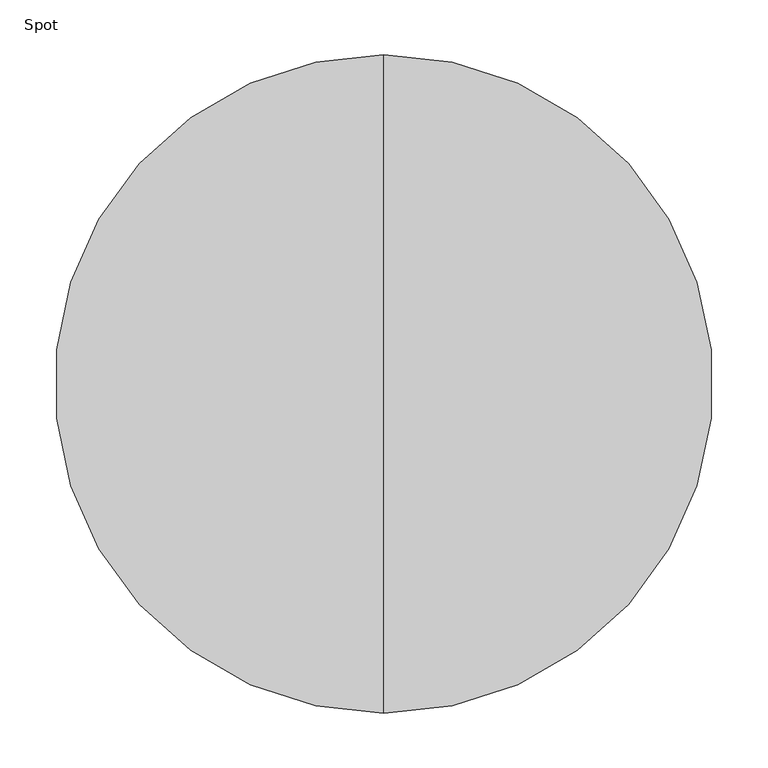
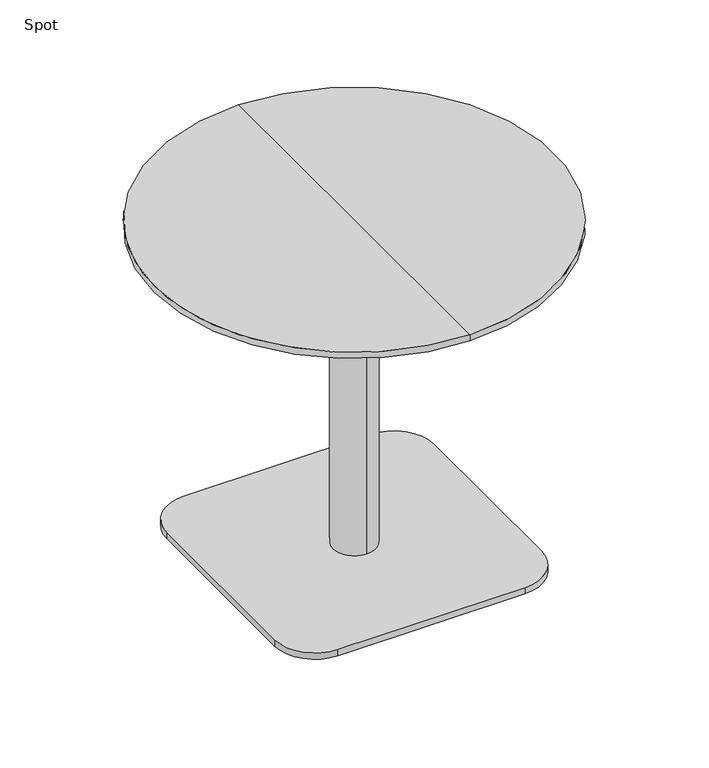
"""IFC4 building model written with IfcOpenShell, lengths in millimetres: furniture geometry, Spot : Bø60x52s."""

import ifcopenshell
import ifcopenshell.guid

model = None  # the IFC model being written
_history = None  # IfcOwnerHistory: only IFC2X3 demands one
_inside = {}  # id of a spatial element -> (the spatial element, [elements in it])
_under = {}  # id of a project, library or spatial element -> (it, [spatial elements below it])
_declared = {}  # id of a project -> (the project, [libraries it declares])
_typed = {}  # id of a type object -> (the type object, [elements of that type])
_made_of = {}  # id of a material, layer set ... -> (it, [elements and type objects made of it])


def new_model(schema):
    """Start an empty IFC model of exactly this schema.

    Asked for "IFC4X3", IfcOpenShell would pick the latest addendum, in which some entities
    have other attributes; the version numbers below select the first issue.
    IFC2X3 requires an IfcOwnerHistory on every rooted entity: one is made here for all.
    """
    global model, _history
    if schema == "IFC4X3":
        model = ifcopenshell.file(schema_version=(4, 3, 0, 0))
    else:
        model = ifcopenshell.file(schema=schema)
    _inside.clear()
    _under.clear()
    _declared.clear()
    _typed.clear()
    _made_of.clear()
    _history = None
    if model.schema == "IFC2X3":
        org = make("IfcOrganization", Name="unknown")
        user = make(
            "IfcPersonAndOrganization",
            ThePerson=make("IfcPerson", FamilyName="unknown"),
            TheOrganization=org,
        )
        app = make(
            "IfcApplication",
            ApplicationDeveloper=org,
            Version="unknown",
            ApplicationFullName="unknown",
            ApplicationIdentifier="unknown",
        )
        _history = make(
            "IfcOwnerHistory",
            OwningUser=user,
            OwningApplication=app,
            ChangeAction="ADDED",
            CreationDate=0,
        )
    return model


def make(cls, **values):
    """One entity of the class cls with the attributes given. An attribute that is None is left unset."""
    return model.create_entity(
        cls, **{name: value for name, value in values.items() if value is not None}
    )


def rooted(cls, **values):
    """An entity with a GlobalId (a new one), such as an element, a storey or a relation."""
    return make(cls, GlobalId=ifcopenshell.guid.new(), OwnerHistory=_history, **values)


def si_unit(unit_type, name, prefix=None):
    """IfcSIUnit, for example si_unit("LENGTHUNIT", "METRE", prefix="MILLI")."""
    return make("IfcSIUnit", UnitType=unit_type, Prefix=prefix, Name=name)


def assignment(units):
    """IfcUnitAssignment: the units of a project."""
    return None if units is None else make("IfcUnitAssignment", Units=units)


def point(xyz):
    """IfcCartesianPoint."""
    return None if xyz is None else make("IfcCartesianPoint", Coordinates=xyz)


def direction(xyz):
    """IfcDirection."""
    return None if xyz is None else make("IfcDirection", DirectionRatios=xyz)


def frame(location, z_axis=None, x_axis=None):
    """IfcAxis2Placement3D, a coordinate frame: its origin and axes. An axis left out is left unset."""
    return make(
        "IfcAxis2Placement3D",
        Location=point(location),
        Axis=direction(z_axis),
        RefDirection=direction(x_axis),
    )


def frame_2d(location, x_axis=None):
    """IfcAxis2Placement2D, a coordinate frame in the plane: its origin and x axis."""
    return make(
        "IfcAxis2Placement2D", Location=point(location), RefDirection=direction(x_axis)
    )


def origin():
    """The frame at (0, 0, 0) with its axes left unset."""
    return frame((0.0, 0.0, 0.0))


def origin_with_axes():
    """The frame at (0, 0, 0) with the z axis (0, 0, 1) and the x axis (1, 0, 0) written out."""
    return frame((0.0, 0.0, 0.0), z_axis=(0.0, 0.0, 1.0), x_axis=(1.0, 0.0, 0.0))


def place(relative_to, where):
    """IfcLocalPlacement: puts the frame where relative to a parent placement (None: the world)."""
    return make(
        "IfcLocalPlacement", PlacementRelTo=relative_to, RelativePlacement=where
    )


def context(
    kind, dimensions, precision=None, world=None, true_north=None, identifier=None
):
    """IfcGeometricRepresentationContext, for example the 3D "Model" context."""
    return make(
        "IfcGeometricRepresentationContext",
        ContextIdentifier=identifier,
        ContextType=kind,
        CoordinateSpaceDimension=dimensions,
        Precision=precision,
        WorldCoordinateSystem=world,
        TrueNorth=true_north,
    )


def project(units=None, contexts=None):
    """IfcProject with its units and contexts."""
    return rooted(
        "IfcProject",
        Name="project",
        RepresentationContexts=contexts,
        UnitsInContext=assignment(units),
    )


def spatial(cls, under=None, at=None, **own):
    """A site, building, storey or space (cls), placed at a placement, below another one or the project."""
    s = rooted(cls, ObjectPlacement=at, **own)
    if under is not None:
        _under.setdefault(under.id(), (under, []))[1].append(s)
    return s


def polyline(points):
    """IfcPolyline through the points."""
    return make("IfcPolyline", Points=[point(p) for p in points])


def circle_curve(where, radius):
    """IfcCircle in the frame where."""
    return make("IfcCircle", Position=where, Radius=radius)


def trimmed(basis, trim1, trim2, sense, master):
    """IfcTrimmedCurve: the piece of a basis curve between two trims."""
    return make(
        "IfcTrimmedCurve",
        BasisCurve=basis,
        Trim1=trim1,
        Trim2=trim2,
        SenseAgreement=sense,
        MasterRepresentation=master,
    )


def segment(curve, same_sense, transition):
    """IfcCompositeCurveSegment."""
    return make(
        "IfcCompositeCurveSegment",
        Transition=transition,
        SameSense=same_sense,
        ParentCurve=curve,
    )


def composite_curve(segments, self_intersect=None):
    """IfcCompositeCurve: segments joined end to end."""
    return make("IfcCompositeCurve", Segments=segments, SelfIntersect=self_intersect)


def outline(outer, holes=None, kind="AREA"):
    """IfcArbitraryClosedProfileDef: a profile drawn as a closed curve; with holes, ...WithVoids."""
    if holes is None:
        return make("IfcArbitraryClosedProfileDef", ProfileType=kind, OuterCurve=outer)
    return make(
        "IfcArbitraryProfileDefWithVoids",
        ProfileType=kind,
        OuterCurve=outer,
        InnerCurves=holes,
    )


def extrude(swept, where, along, depth):
    """IfcExtrudedAreaSolid: the profile swept, set in the frame where, extruded along a direction by depth."""
    return make(
        "IfcExtrudedAreaSolid",
        SweptArea=swept,
        Position=where,
        ExtrudedDirection=direction(along),
        Depth=depth,
    )


def shape(context_of_items, identifier, shape_type, items):
    """IfcShapeRepresentation: the items that make up one representation, for example the "Body"."""
    return make(
        "IfcShapeRepresentation",
        ContextOfItems=context_of_items,
        RepresentationIdentifier=identifier,
        RepresentationType=shape_type,
        Items=items,
    )


def source(mapping_origin, context_of_items, identifier, shape_type, items):
    """IfcRepresentationMap: a shape defined once, which mapped items show again and again."""
    return make(
        "IfcRepresentationMap",
        MappingOrigin=mapping_origin,
        MappedRepresentation=shape(context_of_items, identifier, shape_type, items),
    )


def transform(
    local_origin,
    x_axis=None,
    y_axis=None,
    z_axis=None,
    scale=None,
    scale2=None,
    scale3=None,
    uniform=True,
):
    """IfcCartesianTransformationOperator3D, or its non-uniform kind. x_axis, y_axis, z_axis: its Axis1, 2, 3."""
    if uniform:
        return make(
            "IfcCartesianTransformationOperator3D",
            Axis1=direction(x_axis),
            Axis2=direction(y_axis),
            LocalOrigin=point(local_origin),
            Scale=scale,
            Axis3=direction(z_axis),
        )
    return make(
        "IfcCartesianTransformationOperator3DnonUniform",
        Axis1=direction(x_axis),
        Axis2=direction(y_axis),
        LocalOrigin=point(local_origin),
        Scale=scale,
        Axis3=direction(z_axis),
        Scale2=scale2,
        Scale3=scale3,
    )


def mapped(mapping_source, mapping_target):
    """IfcMappedItem: shows the shape of a source again, moved by a transform."""
    return make(
        "IfcMappedItem", MappingSource=mapping_source, MappingTarget=mapping_target
    )


def made_of(thing, what):
    """Note that an element or type object is made of a material, layer set ...; save() writes the relation."""
    if what is not None:
        _made_of.setdefault(what.id(), (what, []))[1].append(thing)
    return thing


def element(
    cls,
    number,
    at=None,
    inside=None,
    cuts=None,
    type_object=None,
    material=None,
    context=None,
    identifier="Body",
    shape_type=None,
    held_by="IfcProductDefinitionShape",
    body=None,
    shapes=None,
    **own,
):
    """One element of the class cls, such as IfcWall. Its Tag is "e" and its number.

    at: its placement. inside: the storey or other place that contains it. cuts: it is an
    opening in that element (IfcRelVoidsElement). A single representation is given by context,
    identifier, shape_type and body (its items); several are given by shapes. held_by: the class
    of the entity that holds the representations. save() writes the other relations.
    """
    e = rooted(cls, Tag="e%d" % number, ObjectPlacement=at, **own)
    if body is not None:
        shapes = [shape(context, identifier, shape_type, body)]
    if shapes is not None:
        e.Representation = make(held_by, Representations=shapes)
    if inside is not None:
        _inside.setdefault(inside.id(), (inside, []))[1].append(e)
    if cuts is not None:
        rooted(
            "IfcRelVoidsElement", RelatingBuildingElement=cuts, RelatedOpeningElement=e
        )
    if type_object is not None:
        _typed.setdefault(type_object.id(), (type_object, []))[1].append(e)
    return made_of(e, material)


def aggregate(whole, parts):
    """IfcRelAggregates: a whole, such as a stair, and the parts it consists of."""
    return rooted("IfcRelAggregates", RelatingObject=whole, RelatedObjects=parts)


def save(model, path):
    """Write the relations noted so far, then the file.

    IfcRelAggregates (storeys below a building ...), IfcRelContainedInSpatialStructure (elements
    in a storey), IfcRelDefinesByType, IfcRelAssociatesMaterial and IfcRelDeclares: one each for
    every whole, place, type object, material and project.
    """
    for whole, parts in _under.values():
        aggregate(whole, parts)
    for where, things in _inside.values():
        rooted(
            "IfcRelContainedInSpatialStructure",
            RelatedElements=things,
            RelatingStructure=where,
        )
    for kind, things in _typed.values():
        rooted("IfcRelDefinesByType", RelatedObjects=things, RelatingType=kind)
    for what, things in _made_of.values():
        rooted("IfcRelAssociatesMaterial", RelatedObjects=things, RelatingMaterial=what)
    for by, libraries in _declared.values():
        rooted("IfcRelDeclares", RelatingContext=by, RelatedDefinitions=libraries)
    model.write(path)


def plane_surface(at):
    """IfcPlane: the flat surface through the origin of the frame at, square to its z axis."""
    return make("IfcPlane", Position=at)


def cylinder_surface(at, radius):
    """IfcCylindricalSurface: all points at the distance radius from the z axis of the frame at."""
    return make("IfcCylindricalSurface", Position=at, Radius=radius)


def revolved_surface(curve, axis_point, axis_direction):
    """IfcSurfaceOfRevolution: the curve turned about the line through axis_point along axis_direction."""
    return make(
        "IfcSurfaceOfRevolution",
        SweptCurve=make("IfcArbitraryOpenProfileDef", ProfileType="CURVE", Curve=curve),
        AxisPosition=make("IfcAxis1Placement", Location=point(axis_point), Axis=direction(axis_direction)),
    )


def advanced_brep(points, edges, surfaces, faces):
    """IfcAdvancedBrep: a solid bounded by faces that lie on surfaces and meet in shared edges.

    An edge is (start, end): straight between two places in points (the first is 0);
    or (start, end, curve); or (start, end, curve, False) where it runs against its curve.
    A face is (place in surfaces, loops), or (place, loops, False) where it looks against
    its surface's normal. A loop lists edges by number (the first is 1), with a minus sign
    where the edge is run from its end to its start. The first loop is the outer one.
    """
    corners = [point(p) for p in points]
    vertices = [make("IfcVertexPoint", VertexGeometry=c) for c in corners]
    made = []
    for start, end, *more in edges:
        made.append(
            make(
                "IfcEdgeCurve",
                EdgeStart=vertices[start],
                EdgeEnd=vertices[end],
                EdgeGeometry=more[0] if more else make("IfcPolyline", Points=[corners[start], corners[end]]),
                SameSense=more[1] if len(more) > 1 else True,
            )
        )
    hull = []
    for where, loops, *sense in faces:
        bounds = []
        for j, loop in enumerate(loops):
            ring = [make("IfcOrientedEdge", EdgeElement=made[abs(k) - 1], Orientation=k > 0) for k in loop]
            bounds.append(
                make(
                    "IfcFaceOuterBound" if j == 0 else "IfcFaceBound",
                    Bound=make("IfcEdgeLoop", EdgeList=ring),
                    Orientation=True,
                )
            )
        hull.append(make("IfcAdvancedFace", Bounds=bounds, FaceSurface=surfaces[where], SameSense=sense[0] if sense else True))
    return make("IfcAdvancedBrep", Outer=make("IfcClosedShell", CfsFaces=hull))


def spot_172ff6e7(model_context):
    return source(origin(), model_context, "Body", "SolidModel", [
        advanced_brep(
        [(0.0, -300.0, 520.0), (0.0, 300.0, 520.0), (0.0, 0.0, 520.0), (0.0, 300.0, 510.25), (0.0, -300.0, 510.25), (0.0, 0.0, 498.0), (0.0, -254.2823776, 498.0), (0.0, 254.2823776, 498.0)],
        [
            (0, 1, circle_curve(frame((0.0, 0.0, 520.0), z_axis=(0.0, 0.0, 1.0), x_axis=(0.0, -1.0, 0.0)), 300.0)),
            (1, 2),
            (2, 0),
            (3, 4, circle_curve(frame((0.0, 0.0, 510.25), z_axis=(0.0, 0.0, 1.0), x_axis=(0.0, -1.0, 0.0)), 300.0)),
            (4, 0),
            (0, 1, circle_curve(frame((0.0, 0.0, 520.0), z_axis=(0.0, 0.0, -1.0), x_axis=(0.0, -1.0, 0.0)), 300.0)),
            (1, 3),
            (5, 6),
            (6, 7, circle_curve(frame((0.0, 0.0, 498.0), z_axis=(0.0, 0.0, -1.0), x_axis=(0.0, -1.0, 0.0)), 254.2823776)),
            (7, 5),
            (7, 6, circle_curve(frame((0.0, 0.0, 498.0), z_axis=(0.0, 0.0, -1.0), x_axis=(0.0, -1.0, 0.0)), 254.2823776)),
            (4, 3, circle_curve(frame((0.0, 0.0, 510.25), z_axis=(0.0, 0.0, 1.0), x_axis=(0.0, -1.0, 0.0)), 300.0)),
            (6, 4),
            (3, 7),
        ],
        [
            plane_surface(frame((0.0, 0.0, 520.0), z_axis=(0.0, 0.0, 1.0), x_axis=(0.0, -1.0, 0.0))),
            cylinder_surface(frame((0.0, 0.0, 600.0), z_axis=(0.0, 0.0, -1.0), x_axis=(0.0, -1.0, 0.0)), 300.0),
            plane_surface(frame((0.0, 0.0, 498.0), z_axis=(0.0, 0.0, -1.0), x_axis=(0.0, -1.0, 0.0))),
            revolved_surface(polyline([(0.0, -300.0, 510.25), (0.0, -254.2823776, 498.0)]), (0.0, 0.0, 600.0), (0.0, 0.0, -1.0)),
        ],
        [
            (0, [[1, 2, 3]]),
            (1, [[4, 5, 6, 7]]),
            (2, [[8, 9, 10]]),
            (2, [[-10, 11, -8]]),
            (0, [[-6, -3, -2]]),
            (1, [[12, -7, -1, -5]]),
            (3, [[-9, 13, -4, 14]]),
            (3, [[-11, -14, -12, -13]]),
        ],
    ),
        extrude(outline(composite_curve([segment(trimmed(circle_curve(frame_2d((140.0, 140.0)), 60.0), [point((140.0, 200.0))], [point((200.0, 140.0))], False, "CARTESIAN"), True, "CONTINUOUS"), segment(polyline([(200.0, 140.0), (200.0, -140.0)]), True, "CONTINUOUS"), segment(trimmed(circle_curve(frame_2d((140.0, -140.0)), 60.0), [point((200.0, -140.0))], [point((140.0, -200.0))], False, "CARTESIAN"), True, "CONTINUOUS"), segment(polyline([(140.0, -200.0), (-140.0, -200.0)]), True, "CONTINUOUS"), segment(trimmed(circle_curve(frame_2d((-140.0, -140.0)), 60.0), [point((-140.0, -200.0))], [point((-200.0, -140.0))], False, "CARTESIAN"), True, "CONTINUOUS"), segment(polyline([(-200.0, -140.0), (-200.0, 140.0)]), True, "CONTINUOUS"), segment(trimmed(circle_curve(frame_2d((-140.0, 140.0)), 60.0), [point((-200.0, 140.0))], [point((-140.0, 200.0))], False, "CARTESIAN"), True, "CONTINUOUS"), segment(polyline([(-140.0, 200.0), (140.0, 200.0)]), True, "CONTINUOUS")], self_intersect=False)), origin_with_axes(), (0.0, 0.0, 1.0), 10.0),
        advanced_brep(
        [(0.0, 32.0, 10.0), (0.0, -32.0, 10.0), (0.0, -32.0, 467.406916), (0.0, 32.0, 467.406916), (0.0, 0.0, 10.0), (0.0, 150.0, 498.0), (0.0, -150.0, 498.0), (0.0, 0.0, 498.0), (0.0, 150.0, 486.7213673), (0.0, -150.0, 486.7213673)],
        [
            (0, 1, circle_curve(frame((0.0, 0.0, 10.0), z_axis=(0.0, 0.0, 1.0), x_axis=(0.0, -1.0, 0.0)), 32.0)),
            (1, 2),
            (2, 3, circle_curve(frame((0.0, 0.0, 467.406916), z_axis=(0.0, 0.0, -1.0), x_axis=(0.0, -1.0, 0.0)), 32.0)),
            (3, 0),
            (1, 0, circle_curve(frame((0.0, 0.0, 10.0), z_axis=(0.0, 0.0, 1.0), x_axis=(0.0, -1.0, 0.0)), 32.0)),
            (3, 2, circle_curve(frame((0.0, 0.0, 467.406916), z_axis=(0.0, 0.0, -1.0), x_axis=(0.0, -1.0, 0.0)), 32.0)),
            (4, 1),
            (0, 4),
            (5, 6, circle_curve(frame((0.0, 0.0, 498.0), z_axis=(0.0, 0.0, 1.0), x_axis=(0.0, -1.0, 0.0)), 150.0)),
            (6, 7),
            (7, 5),
            (6, 5, circle_curve(frame((0.0, 0.0, 498.0), z_axis=(0.0, 0.0, 1.0), x_axis=(0.0, -1.0, 0.0)), 150.0)),
            (8, 9, circle_curve(frame((0.0, 0.0, 486.7213673), z_axis=(0.0, 0.0, 1.0), x_axis=(0.0, -1.0, 0.0)), 150.0)),
            (9, 6),
            (5, 8),
            (9, 8, circle_curve(frame((0.0, 0.0, 486.7213673), z_axis=(0.0, 0.0, 1.0), x_axis=(0.0, -1.0, 0.0)), 150.0)),
            (2, 9),
            (8, 3),
        ],
        [
            cylinder_surface(frame((0.0, 0.0, 860.0), z_axis=(0.0, 0.0, -1.0), x_axis=(0.0, -1.0, 0.0)), 32.0),
            plane_surface(frame((0.0, 0.0, 10.0), z_axis=(0.0, 0.0, -1.0), x_axis=(0.0, -1.0, 0.0))),
            plane_surface(frame((0.0, 0.0, 498.0), z_axis=(0.0, 0.0, 1.0), x_axis=(0.0, -1.0, 0.0))),
            cylinder_surface(frame((0.0, 0.0, 860.0), z_axis=(0.0, 0.0, -1.0), x_axis=(0.0, -1.0, 0.0)), 150.0),
            revolved_surface(polyline([(0.0, -150.0, 486.7213673), (0.0, -32.0, 467.406916)]), (0.0, 0.0, 860.0), (0.0, 0.0, -1.0)),
        ],
        [
            (0, [[1, 2, 3, 4]]),
            (0, [[5, -4, 6, -2]]),
            (1, [[7, -1, 8]]),
            (1, [[-8, -5, -7]]),
            (2, [[9, 10, 11]]),
            (2, [[12, -11, -10]]),
            (3, [[13, 14, -9, 15]]),
            (3, [[16, -15, -12, -14]]),
            (4, [[-3, 17, -13, 18]]),
            (4, [[-6, -18, -16, -17]]),
        ],
    ),
        extrude(outline(polyline([(0.0, 0.0), (-20.0, 0.0), (-20.0, 20.0), (0.0, 20.0), (0.0, 0.0)])), origin_with_axes(), (0.0, 0.0, 1.0), 10.0),
    ])


if __name__ == "__main__":
    model = new_model("IFC4")
    model_context = context("Model", 3, world=origin())
    ifc_project = project(units=[si_unit("LENGTHUNIT", "METRE", prefix="MILLI")], contexts=[model_context])
    site = spatial("IfcSite", under=ifc_project)
    building = spatial("IfcBuilding", under=site)
    placement = place(None, origin())
    spot_shape = spot_172ff6e7(model_context)
    element("IfcFurniture", 1, ObjectType="Spot : Bø60x52s", at=placement, inside=building, context=model_context, shape_type="MappedRepresentation", body=[
        mapped(spot_shape, transform((0.0, 0.0, 0.0), x_axis=(1.0, 0.0, 0.0), y_axis=(0.0, 1.0, 0.0), z_axis=(0.0, 0.0, 1.0))),
    ])
    save(model, "model.ifc")
